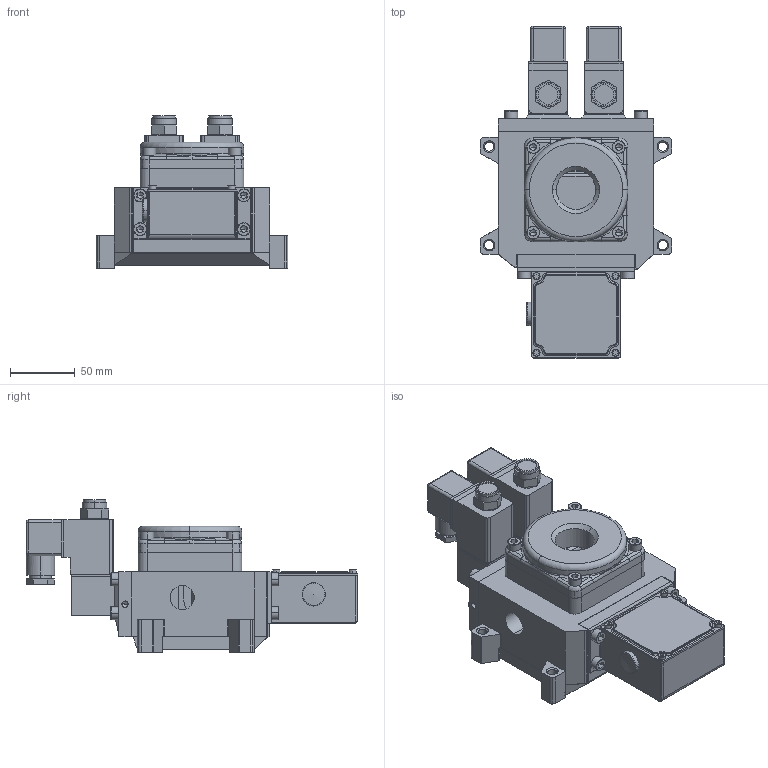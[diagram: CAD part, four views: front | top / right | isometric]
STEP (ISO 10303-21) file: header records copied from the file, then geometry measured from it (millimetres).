
FILE_DESCRIPTION (( 'STEP AP203' ), '1' );
FILE_NAME ('VSP-04.STEP', '2020-05-27T10:57:41', ( '' ), ( '' ), 'SwSTEP 2.0', 'SolidWorks 2019', '' );
FILE_SCHEMA (( 'CONFIG_CONTROL_DESIGN' ));
Products named in the file (1): VSP-04
Bounding box: 148 x 255.8 x 117.3 mm (x, y, z)
Volume: 902665 mm3; surface area: 339489.4 mm2
Topology: 65 solids, 65 shells, 2946 faces, 7424 edges, 4748 vertices
Faces by surface type: plane 1252, cylinder 1230, cone 278, torus 130, bspline 46, sphere 10
Entity records: 95479 total; most frequent: CARTESIAN_POINT 24134, DIRECTION 15066, ORIENTED_EDGE 14662, EDGE_CURVE 7331, AXIS2_PLACEMENT_3D 5593, VERTEX_POINT 4745, LINE 3880, VECTOR 3880
